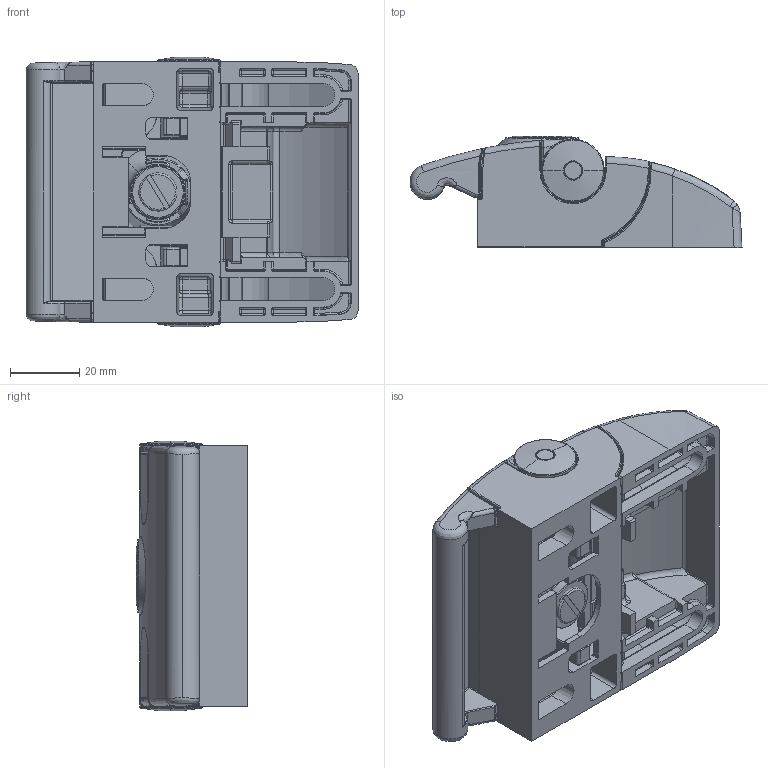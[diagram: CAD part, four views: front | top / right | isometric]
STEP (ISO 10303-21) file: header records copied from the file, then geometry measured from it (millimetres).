
FILE_DESCRIPTION (( 'STEP AP214' ), '1' );
FILE_NAME ('0957408.STEP', '2013-05-23T08:44:50', ( 'User' ), ( '' ), 'SwSTEP 2.0', 'SolidWorks 2012', '' );
FILE_SCHEMA (( 'AUTOMOTIVE_DESIGN' ));
Length unit declared in the file: millimetre
Products named in the file (10): 0957408R08_Standard; 0957408R07_Standard; 0957401r14_0957401R14; 0957401r16_Standard; 0957408R16_Standard; 0957408R04_Standard; 0957408R03_standard gespiegelt muss sein ; 0957408R02_Standard; 0957408R01_standard arme verl„ngert; 0957408
Assembly tree (12 placements, depth 2):
  0957408
    0957408R01_standard arme verl„ngert
    0957408R02_Standard
    0957408R03_standard gespiegelt muss sein 
    0957408R04_Standard
    0957408R16_Standard  x2
    0957401r16_Standard
    0957401r14_0957401R14
    0957408R07_Standard  x2
    0957408R08_Standard  x2
Bounding box: 95.68 x 32.13 x 77.81 mm (x, y, z)
Volume: 70334 mm3; surface area: 58090 mm2
Topology: 12 solids, 12 shells, 2917 faces, 7369 edges, 4267 vertices
Faces by surface type: cylinder 981, plane 915, bspline 527, torus 291, sphere 171, cone 32
Entity records: 89417 total; most frequent: CARTESIAN_POINT 32817, ORIENTED_EDGE 12470, DIRECTION 11215, EDGE_CURVE 6235, AXIS2_PLACEMENT_3D 4311, VERTEX_POINT 3662, EDGE_LOOP 2623, LINE 2593
